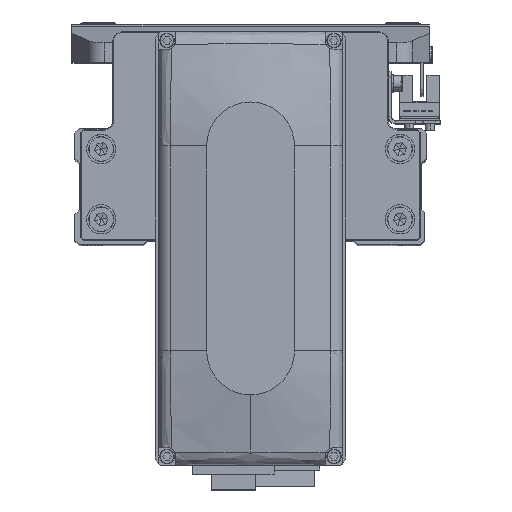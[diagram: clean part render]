
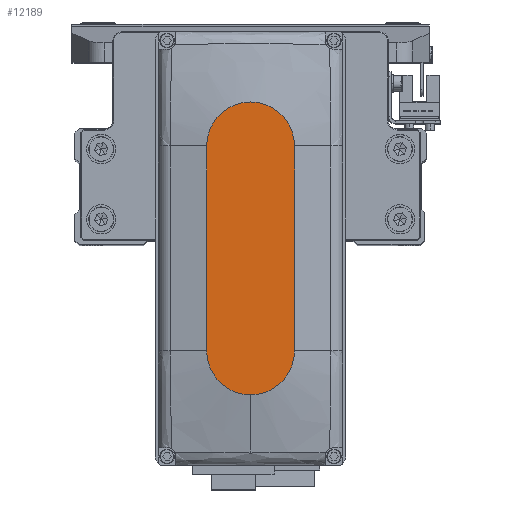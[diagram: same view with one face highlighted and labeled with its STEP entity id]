
A CAD part, top view. The second image highlights one B-rep face of the part: STEP entity #12189.
In plain terms, the highlighted planar face has unit normal (0, 0, 1).
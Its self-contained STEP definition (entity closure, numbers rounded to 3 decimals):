
#190 = CARTESIAN_POINT ( 'NONE',  ( 35., 0., 35. ) ) ;
#3013 = EDGE_LOOP ( 'NONE', ( #9346, #35553, #32829, #16518, #7606 ) ) ;
#3513 = AXIS2_PLACEMENT_3D ( 'NONE', #35350, #6531, #19389 ) ;
#3644 = AXIS2_PLACEMENT_3D ( 'NONE', #190, #13101, #25926 ) ;
#3645 = EDGE_CURVE ( 'NONE', #41169, #23810, #8368, .T. ) ;
#3802 = CARTESIAN_POINT ( 'NONE',  ( -35., -15., 35. ) ) ;
#4310 = CARTESIAN_POINT ( 'NONE',  ( 35., 15., 35. ) ) ;
#5514 = LINE ( 'NONE', #18378, #21292 ) ;
#6531 = DIRECTION ( 'NONE',  ( 0., 0., 1. ) ) ;
#7429 = EDGE_CURVE ( 'NONE', #36746, #31557, #5514, .T. ) ;
#7606 = ORIENTED_EDGE ( 'NONE', *, *, #21099, .T. ) ;
#7675 = VECTOR ( 'NONE', #34040, 1000. ) ;
#8132 = CIRCLE ( 'NONE', #31686, 15. ) ;
#8368 = LINE ( 'NONE', #21224, #7675 ) ;
#9346 = ORIENTED_EDGE ( 'NONE', *, *, #3645, .T. ) ;
#9644 = EDGE_CURVE ( 'NONE', #31557, #30745, #8132, .T. ) ;
#9697 = FACE_OUTER_BOUND ( 'NONE', #3013, .T. ) ;
#11335 = DIRECTION ( 'NONE',  ( 1., 0., 0. ) ) ;
#12189 = ADVANCED_FACE ( 'NONE', ( #9697 ), #22547, .T. ) ;
#13005 = CARTESIAN_POINT ( 'NONE',  ( -35., 15., 35. ) ) ;
#13101 = DIRECTION ( 'NONE',  ( 0., 0., 1. ) ) ;
#14062 = CARTESIAN_POINT ( 'NONE',  ( -35., 0., 35. ) ) ;
#14178 = EDGE_CURVE ( 'NONE', #23810, #36746, #40575, .T. ) ;
#16518 = ORIENTED_EDGE ( 'NONE', *, *, #9644, .T. ) ;
#18378 = CARTESIAN_POINT ( 'NONE',  ( -35., -15., 35. ) ) ;
#19355 = CARTESIAN_POINT ( 'NONE',  ( 50., 0., 35. ) ) ;
#19389 = DIRECTION ( 'NONE',  ( 1., 0., 0. ) ) ;
#21099 = EDGE_CURVE ( 'NONE', #30745, #41169, #21810, .T. ) ;
#21224 = CARTESIAN_POINT ( 'NONE',  ( -35., 15., 35. ) ) ;
#21292 = VECTOR ( 'NONE', #31205, 1000. ) ;
#21377 = CARTESIAN_POINT ( 'NONE',  ( 35., -15., 35. ) ) ;
#21810 = CIRCLE ( 'NONE', #3644, 15. ) ;
#22492 = AXIS2_PLACEMENT_3D ( 'NONE', #14062, #26880, #39681 ) ;
#22547 = PLANE ( 'NONE',  #3513 ) ;
#23810 = VERTEX_POINT ( 'NONE', #13005 ) ;
#25926 = DIRECTION ( 'NONE',  ( 1., 0., 0. ) ) ;
#26880 = DIRECTION ( 'NONE',  ( 0., 0., 1. ) ) ;
#27320 = CARTESIAN_POINT ( 'NONE',  ( 35., 0., 35. ) ) ;
#30745 = VERTEX_POINT ( 'NONE', #19355 ) ;
#31205 = DIRECTION ( 'NONE',  ( 1., 0., 0. ) ) ;
#31557 = VERTEX_POINT ( 'NONE', #21377 ) ;
#31686 = AXIS2_PLACEMENT_3D ( 'NONE', #27320, #40120, #11335 ) ;
#32829 = ORIENTED_EDGE ( 'NONE', *, *, #7429, .T. ) ;
#34040 = DIRECTION ( 'NONE',  ( -1., 0., 0. ) ) ;
#35350 = CARTESIAN_POINT ( 'NONE',  ( 0., 0., 35. ) ) ;
#35553 = ORIENTED_EDGE ( 'NONE', *, *, #14178, .T. ) ;
#36746 = VERTEX_POINT ( 'NONE', #3802 ) ;
#39681 = DIRECTION ( 'NONE',  ( 1., 0., 0. ) ) ;
#40120 = DIRECTION ( 'NONE',  ( 0., 0., 1. ) ) ;
#40575 = CIRCLE ( 'NONE', #22492, 15. ) ;
#41169 = VERTEX_POINT ( 'NONE', #4310 ) ;
